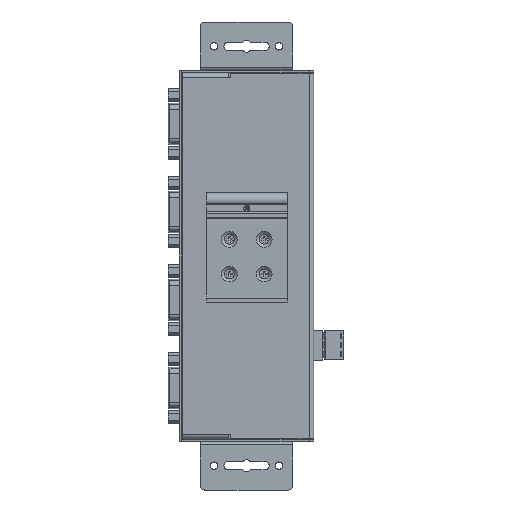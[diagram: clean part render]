
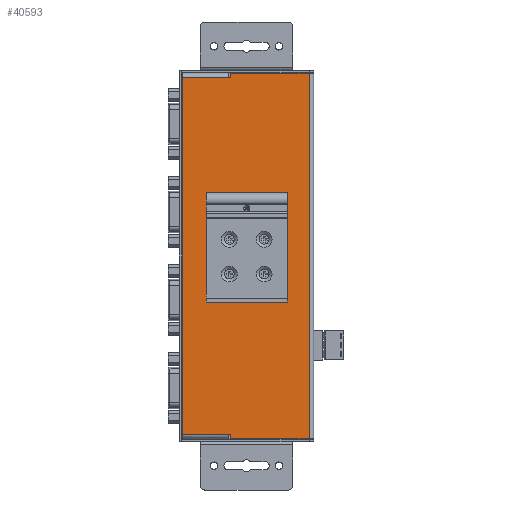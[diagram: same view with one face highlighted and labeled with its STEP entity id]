
A CAD part, front view. The second image highlights one B-rep face of the part: STEP entity #40593.
In plain terms, the highlighted planar face has unit normal (0, -1, 0).
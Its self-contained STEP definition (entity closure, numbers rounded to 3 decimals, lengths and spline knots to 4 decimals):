
#915=FACE_BOUND('',#7583,.T.);
#916=FACE_BOUND('',#7584,.T.);
#917=FACE_BOUND('',#7585,.T.);
#918=FACE_BOUND('',#7586,.T.);
#2289=PLANE('',#44199);
#4947=FACE_OUTER_BOUND('',#7582,.T.);
#7582=EDGE_LOOP('',(#35666,#35667,#35668,#35669,#35670,#35671,#35672,#35673,
#35674,#35675));
#7583=EDGE_LOOP('',(#35676));
#7584=EDGE_LOOP('',(#35677));
#7585=EDGE_LOOP('',(#35678));
#7586=EDGE_LOOP('',(#35679));
#11295=LINE('',#105579,#15227);
#11296=LINE('',#105583,#15228);
#11297=LINE('',#105585,#15229);
#11298=LINE('',#105587,#15230);
#11299=LINE('',#105589,#15231);
#11300=LINE('',#105591,#15232);
#11301=LINE('',#105595,#15233);
#11302=LINE('',#105596,#15234);
#15227=VECTOR('',#53442,39.3701);
#15228=VECTOR('',#53445,39.3701);
#15229=VECTOR('',#53446,39.3701);
#15230=VECTOR('',#53447,39.3701);
#15231=VECTOR('',#53448,39.3701);
#15232=VECTOR('',#53449,39.3701);
#15233=VECTOR('',#53452,39.3701);
#15234=VECTOR('',#53453,39.3701);
#16887=CIRCLE('',#44120,0.0886);
#16890=CIRCLE('',#44124,0.0886);
#16893=CIRCLE('',#44128,0.0886);
#16896=CIRCLE('',#44132,0.0886);
#16938=CIRCLE('',#44200,0.0197);
#16939=CIRCLE('',#44201,0.0197);
#20215=VERTEX_POINT('',#105431);
#20217=VERTEX_POINT('',#105437);
#20219=VERTEX_POINT('',#105443);
#20221=VERTEX_POINT('',#105449);
#20259=VERTEX_POINT('',#105577);
#20260=VERTEX_POINT('',#105578);
#20261=VERTEX_POINT('',#105580);
#20262=VERTEX_POINT('',#105582);
#20263=VERTEX_POINT('',#105584);
#20264=VERTEX_POINT('',#105586);
#20265=VERTEX_POINT('',#105588);
#20266=VERTEX_POINT('',#105590);
#20267=VERTEX_POINT('',#105592);
#20268=VERTEX_POINT('',#105594);
#25481=EDGE_CURVE('',#20215,#20215,#16887,.T.);
#25484=EDGE_CURVE('',#20217,#20217,#16890,.T.);
#25487=EDGE_CURVE('',#20219,#20219,#16893,.T.);
#25490=EDGE_CURVE('',#20221,#20221,#16896,.T.);
#25554=EDGE_CURVE('',#20259,#20260,#11295,.T.);
#25555=EDGE_CURVE('',#20261,#20259,#16938,.T.);
#25556=EDGE_CURVE('',#20262,#20261,#11296,.T.);
#25557=EDGE_CURVE('',#20263,#20262,#11297,.T.);
#25558=EDGE_CURVE('',#20264,#20263,#11298,.T.);
#25559=EDGE_CURVE('',#20265,#20264,#11299,.T.);
#25560=EDGE_CURVE('',#20266,#20265,#11300,.T.);
#25561=EDGE_CURVE('',#20267,#20266,#16939,.T.);
#25562=EDGE_CURVE('',#20268,#20267,#11301,.T.);
#25563=EDGE_CURVE('',#20260,#20268,#11302,.T.);
#35666=ORIENTED_EDGE('',*,*,#25554,.F.);
#35667=ORIENTED_EDGE('',*,*,#25555,.F.);
#35668=ORIENTED_EDGE('',*,*,#25556,.F.);
#35669=ORIENTED_EDGE('',*,*,#25557,.F.);
#35670=ORIENTED_EDGE('',*,*,#25558,.F.);
#35671=ORIENTED_EDGE('',*,*,#25559,.F.);
#35672=ORIENTED_EDGE('',*,*,#25560,.F.);
#35673=ORIENTED_EDGE('',*,*,#25561,.F.);
#35674=ORIENTED_EDGE('',*,*,#25562,.F.);
#35675=ORIENTED_EDGE('',*,*,#25563,.F.);
#35676=ORIENTED_EDGE('',*,*,#25481,.F.);
#35677=ORIENTED_EDGE('',*,*,#25484,.F.);
#35678=ORIENTED_EDGE('',*,*,#25487,.F.);
#35679=ORIENTED_EDGE('',*,*,#25490,.F.);
#40593=ADVANCED_FACE('',(#4947,#915,#916,#917,#918),#2289,.F.);
#44120=AXIS2_PLACEMENT_3D('',#105432,#53260,#53261);
#44124=AXIS2_PLACEMENT_3D('',#105438,#53268,#53269);
#44128=AXIS2_PLACEMENT_3D('',#105444,#53276,#53277);
#44132=AXIS2_PLACEMENT_3D('',#105450,#53284,#53285);
#44199=AXIS2_PLACEMENT_3D('',#105576,#53440,#53441);
#44200=AXIS2_PLACEMENT_3D('',#105581,#53443,#53444);
#44201=AXIS2_PLACEMENT_3D('',#105593,#53450,#53451);
#53260=DIRECTION('center_axis',(0.,-1.,0.));
#53261=DIRECTION('ref_axis',(0.,0.,-1.));
#53268=DIRECTION('center_axis',(0.,-1.,0.));
#53269=DIRECTION('ref_axis',(0.,0.,1.));
#53276=DIRECTION('center_axis',(0.,-1.,0.));
#53277=DIRECTION('ref_axis',(0.,0.,1.));
#53284=DIRECTION('center_axis',(0.,-1.,0.));
#53285=DIRECTION('ref_axis',(0.,0.,-1.));
#53440=DIRECTION('center_axis',(0.,1.,0.));
#53441=DIRECTION('ref_axis',(0.,0.,1.));
#53442=DIRECTION('',(-1.,0.,0.));
#53443=DIRECTION('center_axis',(0.,-1.,0.));
#53444=DIRECTION('ref_axis',(0.,0.,-1.));
#53445=DIRECTION('',(0.,0.,1.));
#53446=DIRECTION('',(-1.,0.,0.));
#53447=DIRECTION('',(0.,0.,-1.));
#53448=DIRECTION('',(1.,0.,0.));
#53449=DIRECTION('',(0.,0.,1.));
#53450=DIRECTION('center_axis',(0.,-1.,0.));
#53451=DIRECTION('ref_axis',(0.,0.,1.));
#53452=DIRECTION('',(1.,0.,0.));
#53453=DIRECTION('',(0.,0.,1.));
#105431=CARTESIAN_POINT('',(0.2795,-0.1732,0.3327));
#105432=CARTESIAN_POINT('Origin',(0.2795,-0.1732,
0.2441));
#105437=CARTESIAN_POINT('',(0.2795,-0.1732,-0.2579));
#105438=CARTESIAN_POINT('Origin',(0.2795,-0.1732,
-0.3465));
#105443=CARTESIAN_POINT('',(-0.311,-0.1732,0.3327));
#105444=CARTESIAN_POINT('Origin',(-0.311,-0.1732,
0.2441));
#105449=CARTESIAN_POINT('',(-0.311,-0.1732,-0.2579));
#105450=CARTESIAN_POINT('Origin',(-0.311,-0.1732,
-0.3465));
#105576=CARTESIAN_POINT('Origin',(-1.1573,-0.1732,
-3.2699));
#105577=CARTESIAN_POINT('',(-0.315,-0.1732,-3.0669));
#105578=CARTESIAN_POINT('',(-1.1142,-0.1732,-3.0669));
#105579=CARTESIAN_POINT('',(-0.0354,-0.1732,-3.0669));
#105580=CARTESIAN_POINT('',(-0.2953,-0.1732,-3.0866));
#105581=CARTESIAN_POINT('Origin',(-0.315,-0.1732,
-3.0866));
#105582=CARTESIAN_POINT('',(-0.2953,-0.1732,-3.1457));
#105583=CARTESIAN_POINT('',(-0.2953,-0.1732,-0.0394));
#105584=CARTESIAN_POINT('',(1.0433,-0.1732,-3.1457));
#105585=CARTESIAN_POINT('',(-0.0354,-0.1732,-3.1457));
#105586=CARTESIAN_POINT('',(1.0433,-0.1732,3.0669));
#105587=CARTESIAN_POINT('',(1.0433,-0.1732,-0.0394));
#105588=CARTESIAN_POINT('',(-0.2953,-0.1732,3.0669));
#105589=CARTESIAN_POINT('',(-0.0354,-0.1732,3.0669));
#105590=CARTESIAN_POINT('',(-0.2953,-0.1732,3.0079));
#105591=CARTESIAN_POINT('',(-0.2953,-0.1732,-0.0394));
#105592=CARTESIAN_POINT('',(-0.315,-0.1732,2.9882));
#105593=CARTESIAN_POINT('Origin',(-0.315,-0.1732,
3.0079));
#105594=CARTESIAN_POINT('',(-1.1142,-0.1732,2.9882));
#105595=CARTESIAN_POINT('',(-0.0354,-0.1732,2.9882));
#105596=CARTESIAN_POINT('',(-1.1142,-0.1732,-0.0394));
